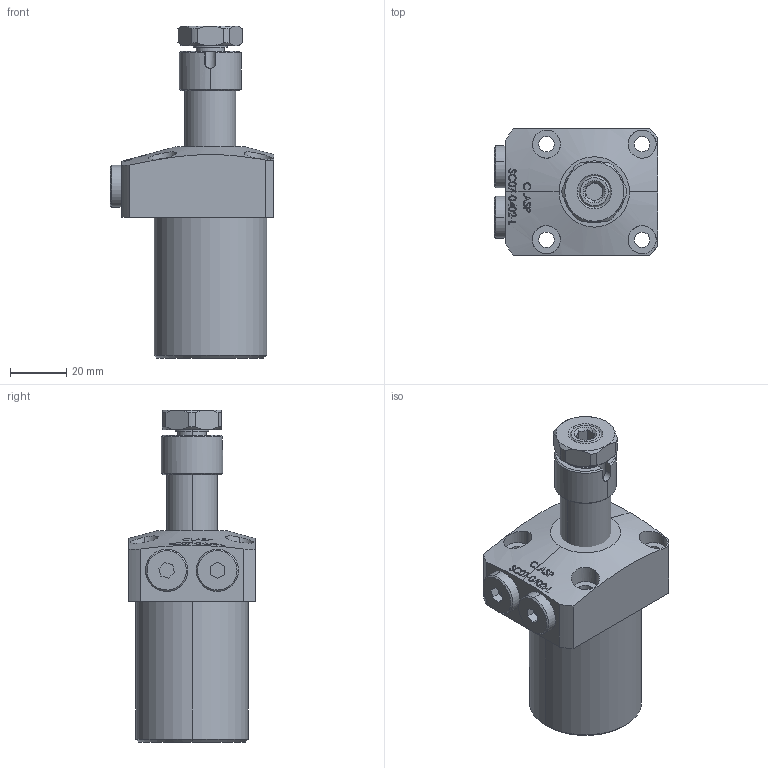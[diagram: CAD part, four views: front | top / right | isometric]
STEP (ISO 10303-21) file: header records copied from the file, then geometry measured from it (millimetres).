
FILE_DESCRIPTION (( 'STEP AP203' ), '1' );
FILE_NAME ('SC07-0402-L.STEP', '2022-07-05T17:50:03', ( '' ), ( '' ), 'SwSTEP 2.0', 'SolidWorks 2017', '' );
FILE_SCHEMA (( 'CONFIG_CONTROL_DESIGN' ));
Length unit declared in the file: millimetre
Products named in the file (6): SC-07-0402-L-04 sleeve; SC-07-0402-L-03-nut; SC07-0402-L; SC-07-0402-L BODY; SC-07-0402-L-Piston; SC-07-0402-L-05 plug
Assembly tree (6 placements, depth 2):
  SC07-0402-L
    SC-07-0402-L BODY
    SC-07-0402-L-Piston
    SC-07-0402-L-05 plug  x2
    SC-07-0402-L-04 sleeve
    SC-07-0402-L-03-nut
Bounding box: 58 x 45 x 118 mm (x, y, z)
Volume: 135588.7 mm3; surface area: 27782.2 mm2
Topology: 6 solids, 6 shells, 357 faces, 878 edges, 571 vertices
Faces by surface type: plane 157, bspline 87, cylinder 62, cone 49, sphere 2
Entity records: 16011 total; most frequent: CARTESIAN_POINT 7940, ORIENTED_EDGE 1692, DIRECTION 1220, EDGE_CURVE 846, VERTEX_POINT 551, AXIS2_PLACEMENT_3D 422, EDGE_LOOP 391, LINE 376
